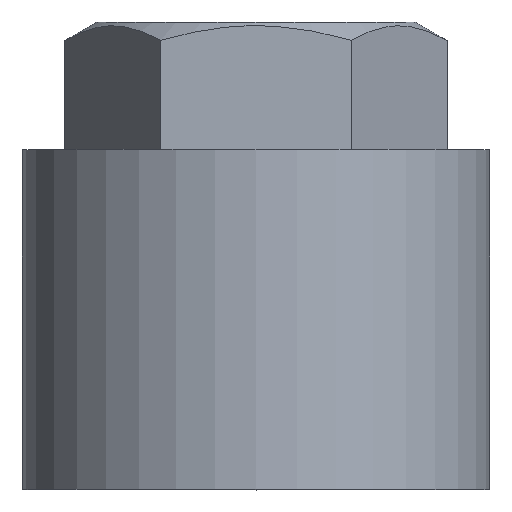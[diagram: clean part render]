
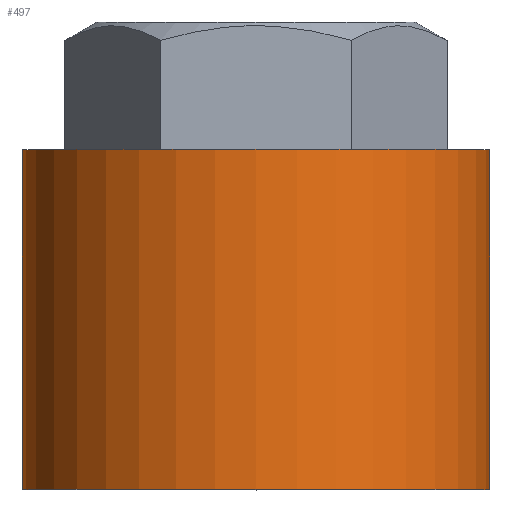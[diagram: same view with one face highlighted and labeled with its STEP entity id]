
A CAD part, top view. The second image highlights one B-rep face of the part: STEP entity #497.
In plain terms, the highlighted cylindrical face has radius 5.5 mm (diameter 11 mm), a partial arc.
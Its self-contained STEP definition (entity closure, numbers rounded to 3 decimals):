
#59=DIRECTION('',(0.,1.,0.));
#60=VECTOR('',#59,8.);
#61=CARTESIAN_POINT('',(5.5,0.,0.));
#62=LINE('',#61,#60);
#63=CARTESIAN_POINT('',(0.,0.,0.));
#64=DIRECTION('',(0.,-1.,0.));
#65=DIRECTION('',(1.,0.,0.));
#66=AXIS2_PLACEMENT_3D('',#63,#64,#65);
#68=DIRECTION('',(0.,1.,0.));
#69=VECTOR('',#68,8.);
#70=CARTESIAN_POINT('',(-5.5,0.,0.));
#71=LINE('',#70,#69);
#77=CARTESIAN_POINT('',(0.,8.,0.));
#78=DIRECTION('',(0.,-1.,0.));
#79=DIRECTION('',(1.,0.,0.));
#80=AXIS2_PLACEMENT_3D('',#77,#78,#79);
#333=CARTESIAN_POINT('',(5.5,0.,0.));
#334=CARTESIAN_POINT('',(5.5,8.,0.));
#335=VERTEX_POINT('',#333);
#336=VERTEX_POINT('',#334);
#343=CARTESIAN_POINT('',(-5.5,0.,0.));
#344=CARTESIAN_POINT('',(-5.5,8.,0.));
#345=VERTEX_POINT('',#343);
#346=VERTEX_POINT('',#344);
#483=CARTESIAN_POINT('',(0.,-0.55,0.));
#484=DIRECTION('',(0.,1.,0.));
#485=DIRECTION('',(1.,0.,0.));
#486=AXIS2_PLACEMENT_3D('',#483,#484,#485);
#487=CYLINDRICAL_SURFACE('',#486,5.5);
#489=ORIENTED_EDGE('',*,*,#488,.F.);
#490=ORIENTED_EDGE('',*,*,#404,.T.);
#492=ORIENTED_EDGE('',*,*,#491,.T.);
#494=ORIENTED_EDGE('',*,*,#493,.F.);
#495=EDGE_LOOP('',(#489,#490,#492,#494));
#496=FACE_OUTER_BOUND('',#495,.F.);
#497=ADVANCED_FACE('',(#496),#487,.T.);
#67=CIRCLE('',#66,5.5);
#81=CIRCLE('',#80,5.5);
#404=EDGE_CURVE('',#335,#345,#67,.T.);
#488=EDGE_CURVE('',#335,#336,#62,.T.);
#491=EDGE_CURVE('',#345,#346,#71,.T.);
#493=EDGE_CURVE('',#336,#346,#81,.T.);
